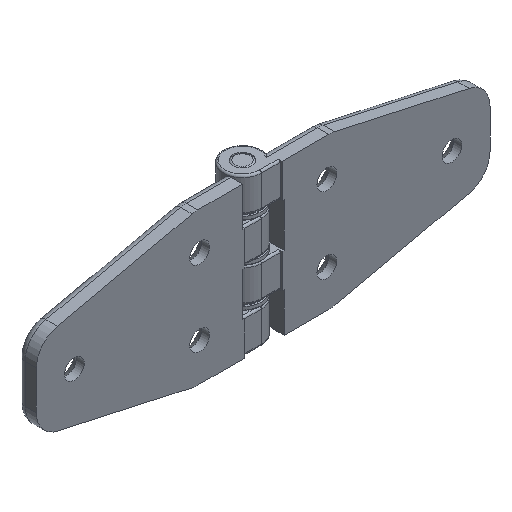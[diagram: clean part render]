
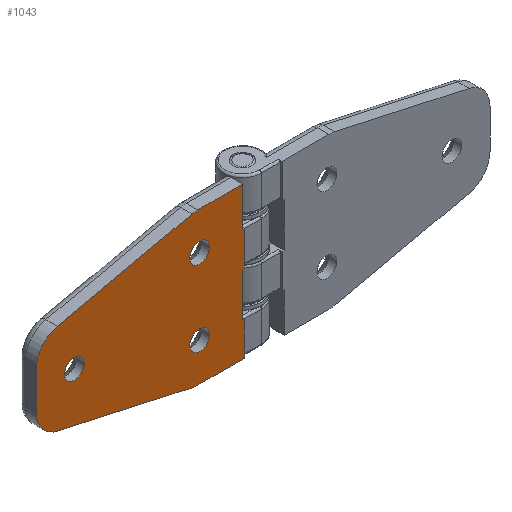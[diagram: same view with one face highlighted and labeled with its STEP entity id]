
A CAD part, isometric view. The second image highlights one B-rep face of the part: STEP entity #1043.
In plain terms, the highlighted planar face has unit normal (0, -1, 0).
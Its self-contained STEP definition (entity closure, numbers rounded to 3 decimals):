
#47=FACE_BOUND('',#356,.T.);
#48=FACE_BOUND('',#357,.T.);
#49=FACE_BOUND('',#358,.T.);
#83=PLANE('',#1162);
#102=LINE('',#1614,#159);
#107=LINE('',#1647,#164);
#114=LINE('',#1682,#171);
#119=LINE('',#1715,#176);
#135=LINE('',#1794,#192);
#136=LINE('',#1814,#193);
#139=LINE('',#1820,#196);
#140=LINE('',#1822,#197);
#142=LINE('',#1826,#199);
#143=LINE('',#1830,#200);
#144=LINE('',#1834,#201);
#145=LINE('',#1838,#202);
#159=VECTOR('',#1250,0.525);
#164=VECTOR('',#1271,0.525);
#171=VECTOR('',#1294,0.525);
#176=VECTOR('',#1315,12.259);
#192=VECTOR('',#1395,10.4);
#193=VECTOR('',#1422,11.6);
#196=VECTOR('',#1431,9.);
#197=VECTOR('',#1434,9.);
#199=VECTOR('',#1438,11.734);
#200=VECTOR('',#1441,36.377);
#201=VECTOR('',#1444,10.262);
#202=VECTOR('',#1447,36.377);
#272=FACE_OUTER_BOUND('',#355,.T.);
#355=EDGE_LOOP('',(#885,#886,#887,#888,#889,#890,#891,#892,#893,#894,#895,
#896,#897,#898,#899,#900));
#356=EDGE_LOOP('',(#901));
#357=EDGE_LOOP('',(#902));
#358=EDGE_LOOP('',(#903));
#463=CIRCLE('',#1148,2.6);
#465=CIRCLE('',#1152,2.6);
#467=CIRCLE('',#1156,2.6);
#468=CIRCLE('',#1163,7.);
#469=CIRCLE('',#1164,7.);
#470=CIRCLE('',#1165,7.);
#471=CIRCLE('',#1166,7.);
#500=VERTEX_POINT('',#1608);
#502=VERTEX_POINT('',#1612);
#511=VERTEX_POINT('',#1644);
#512=VERTEX_POINT('',#1646);
#520=VERTEX_POINT('',#1676);
#522=VERTEX_POINT('',#1680);
#531=VERTEX_POINT('',#1712);
#532=VERTEX_POINT('',#1714);
#555=VERTEX_POINT('',#1792);
#557=VERTEX_POINT('',#1799);
#559=VERTEX_POINT('',#1805);
#561=VERTEX_POINT('',#1811);
#562=VERTEX_POINT('',#1825);
#563=VERTEX_POINT('',#1827);
#564=VERTEX_POINT('',#1829);
#565=VERTEX_POINT('',#1831);
#566=VERTEX_POINT('',#1833);
#567=VERTEX_POINT('',#1835);
#568=VERTEX_POINT('',#1837);
#601=EDGE_CURVE('',#500,#502,#102,.T.);
#612=EDGE_CURVE('',#512,#511,#107,.T.);
#625=EDGE_CURVE('',#520,#522,#114,.T.);
#636=EDGE_CURVE('',#531,#532,#119,.T.);
#674=EDGE_CURVE('',#502,#555,#135,.T.);
#676=EDGE_CURVE('',#557,#557,#463,.T.);
#678=EDGE_CURVE('',#559,#559,#465,.T.);
#680=EDGE_CURVE('',#561,#561,#467,.T.);
#681=EDGE_CURVE('',#522,#512,#136,.T.);
#684=EDGE_CURVE('',#511,#500,#139,.T.);
#685=EDGE_CURVE('',#531,#520,#140,.T.);
#687=EDGE_CURVE('',#562,#555,#142,.T.);
#688=EDGE_CURVE('',#563,#562,#468,.T.);
#689=EDGE_CURVE('',#563,#564,#143,.T.);
#690=EDGE_CURVE('',#565,#564,#469,.T.);
#691=EDGE_CURVE('',#565,#566,#144,.T.);
#692=EDGE_CURVE('',#567,#566,#470,.T.);
#693=EDGE_CURVE('',#567,#568,#145,.T.);
#694=EDGE_CURVE('',#532,#568,#471,.T.);
#885=ORIENTED_EDGE('',*,*,#625,.T.);
#886=ORIENTED_EDGE('',*,*,#681,.T.);
#887=ORIENTED_EDGE('',*,*,#612,.T.);
#888=ORIENTED_EDGE('',*,*,#684,.T.);
#889=ORIENTED_EDGE('',*,*,#601,.T.);
#890=ORIENTED_EDGE('',*,*,#674,.T.);
#891=ORIENTED_EDGE('',*,*,#687,.F.);
#892=ORIENTED_EDGE('',*,*,#688,.F.);
#893=ORIENTED_EDGE('',*,*,#689,.T.);
#894=ORIENTED_EDGE('',*,*,#690,.F.);
#895=ORIENTED_EDGE('',*,*,#691,.T.);
#896=ORIENTED_EDGE('',*,*,#692,.F.);
#897=ORIENTED_EDGE('',*,*,#693,.T.);
#898=ORIENTED_EDGE('',*,*,#694,.F.);
#899=ORIENTED_EDGE('',*,*,#636,.F.);
#900=ORIENTED_EDGE('',*,*,#685,.T.);
#901=ORIENTED_EDGE('',*,*,#676,.T.);
#902=ORIENTED_EDGE('',*,*,#678,.T.);
#903=ORIENTED_EDGE('',*,*,#680,.T.);
#1043=ADVANCED_FACE('',(#272,#47,#48,#49),#83,.T.);
#1148=AXIS2_PLACEMENT_3D('',#1800,#1402,#1403);
#1152=AXIS2_PLACEMENT_3D('',#1806,#1410,#1411);
#1156=AXIS2_PLACEMENT_3D('',#1812,#1418,#1419);
#1162=AXIS2_PLACEMENT_3D('',#1824,#1436,#1437);
#1163=AXIS2_PLACEMENT_3D('',#1828,#1439,#1440);
#1164=AXIS2_PLACEMENT_3D('',#1832,#1442,#1443);
#1165=AXIS2_PLACEMENT_3D('',#1836,#1445,#1446);
#1166=AXIS2_PLACEMENT_3D('',#1839,#1448,#1449);
#1250=DIRECTION('',(1.,0.,0.));
#1271=DIRECTION('',(-1.,0.,0.));
#1294=DIRECTION('',(1.,0.,0.));
#1315=DIRECTION('',(1.,0.,0.));
#1395=DIRECTION('',(0.,0.,-1.));
#1402=DIRECTION('center_axis',(0.,1.,0.));
#1403=DIRECTION('ref_axis',(1.,0.,0.));
#1410=DIRECTION('center_axis',(0.,1.,0.));
#1411=DIRECTION('ref_axis',(1.,0.,0.));
#1418=DIRECTION('center_axis',(0.,1.,0.));
#1419=DIRECTION('ref_axis',(1.,0.,0.));
#1422=DIRECTION('',(0.,0.,-1.));
#1431=DIRECTION('',(0.,0.,-1.));
#1434=DIRECTION('',(0.,0.,-1.));
#1436=DIRECTION('center_axis',(0.,-1.,0.));
#1437=DIRECTION('ref_axis',(1.,0.,0.));
#1438=DIRECTION('',(-1.,0.,0.));
#1439=DIRECTION('center_axis',(0.,1.,0.));
#1440=DIRECTION('ref_axis',(0.109,0.,-0.994));
#1441=DIRECTION('',(0.976,0.,0.216));
#1442=DIRECTION('center_axis',(0.,1.,0.));
#1443=DIRECTION('ref_axis',(0.78,0.,-0.626));
#1444=DIRECTION('',(0.,0.,1.));
#1445=DIRECTION('center_axis',(0.,1.,0.));
#1446=DIRECTION('ref_axis',(0.78,0.,0.626));
#1447=DIRECTION('',(-0.976,0.,0.216));
#1448=DIRECTION('center_axis',(0.,1.,0.));
#1449=DIRECTION('ref_axis',(0.109,0.,0.994));
#1608=CARTESIAN_POINT('',(4.975,0.,-9.6));
#1612=CARTESIAN_POINT('',(5.5,0.,-9.6));
#1614=CARTESIAN_POINT('',(-3.009,0.,-9.6));
#1644=CARTESIAN_POINT('',(4.975,0.,-0.6));
#1646=CARTESIAN_POINT('',(5.5,0.,-0.6));
#1647=CARTESIAN_POINT('',(5.237,0.,-0.6));
#1676=CARTESIAN_POINT('',(4.975,0.,11.));
#1680=CARTESIAN_POINT('',(5.5,0.,11.));
#1682=CARTESIAN_POINT('',(-3.009,0.,11.));
#1712=CARTESIAN_POINT('',(4.975,0.,20.));
#1714=CARTESIAN_POINT('',(17.234,0.,20.));
#1715=CARTESIAN_POINT('',(4.975,0.,20.));
#1792=CARTESIAN_POINT('',(5.5,0.,-20.));
#1794=CARTESIAN_POINT('',(5.5,0.,-4.8));
#1799=CARTESIAN_POINT('',(14.15,0.,10.));
#1800=CARTESIAN_POINT('Origin',(16.75,0.,10.));
#1805=CARTESIAN_POINT('',(14.15,0.,-10.));
#1806=CARTESIAN_POINT('Origin',(16.75,0.,-10.));
#1811=CARTESIAN_POINT('',(47.15,0.,0.));
#1812=CARTESIAN_POINT('Origin',(49.75,0.,0.));
#1814=CARTESIAN_POINT('',(5.5,0.,5.5));
#1820=CARTESIAN_POINT('',(4.975,0.,0.));
#1822=CARTESIAN_POINT('',(4.975,0.,0.));
#1824=CARTESIAN_POINT('Origin',(4.975,0.,0.));
#1825=CARTESIAN_POINT('',(17.234,0.,-20.));
#1826=CARTESIAN_POINT('',(4.975,0.,-20.));
#1827=CARTESIAN_POINT('',(18.748,0.,-19.834));
#1828=CARTESIAN_POINT('Origin',(17.234,0.,-13.));
#1829=CARTESIAN_POINT('',(54.264,0.,-11.965));
#1830=CARTESIAN_POINT('',(34.779,0.,-16.282));
#1831=CARTESIAN_POINT('',(59.75,0.,-5.131));
#1832=CARTESIAN_POINT('Origin',(52.75,0.,-5.131));
#1833=CARTESIAN_POINT('',(59.75,0.,5.131));
#1834=CARTESIAN_POINT('',(59.75,0.,0.));
#1835=CARTESIAN_POINT('',(54.264,0.,11.965));
#1836=CARTESIAN_POINT('Origin',(52.75,0.,5.131));
#1837=CARTESIAN_POINT('',(18.748,0.,19.834));
#1838=CARTESIAN_POINT('',(13.904,0.,20.907));
#1839=CARTESIAN_POINT('Origin',(17.234,0.,13.));
